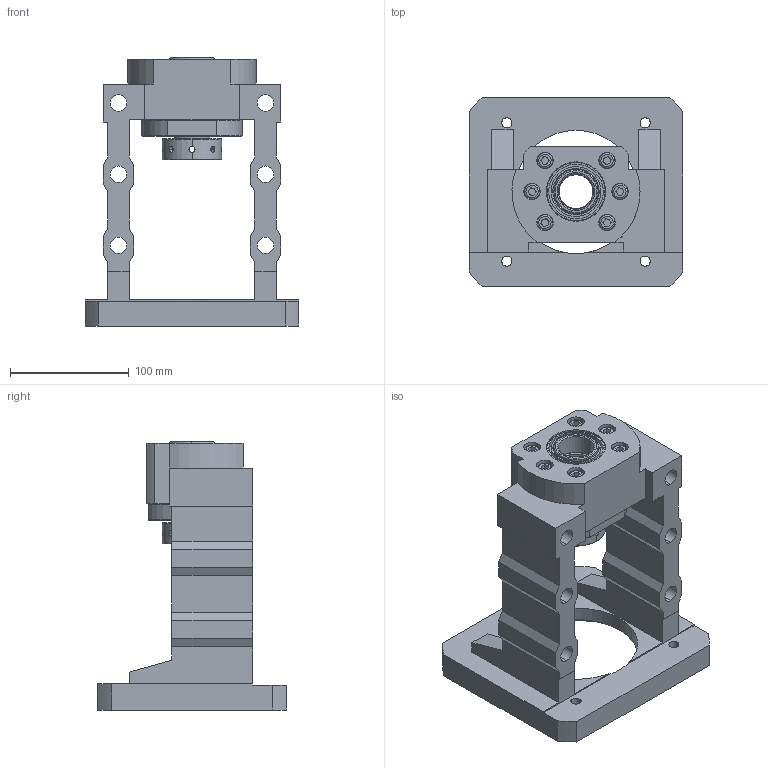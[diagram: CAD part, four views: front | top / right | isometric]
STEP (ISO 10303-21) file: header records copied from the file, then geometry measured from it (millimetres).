
FILE_DESCRIPTION (( 'STEP AP203' ), '1' );
FILE_NAME ('MBCS30-I²Õ¦X¥ó.STEP', '2024-09-03T05:54:57', ( '' ), ( '' ), 'SwSTEP 2.0', 'SolidWorks 2018', '' );
FILE_SCHEMA (( 'CONFIG_CONTROL_DESIGN' ));
Length unit declared in the file: millimetre
Products named in the file (1): MBCS30-I組合件
Bounding box: 180 x 160 x 226 mm (x, y, z)
Surface area: 209754.2 mm2 (no closed solid volume)
Topology: 0 solids, 21 shells, 342 faces, 956 edges, 631 vertices
Faces by surface type: plane 137, cylinder 116, cone 60, torus 24, bspline 5
Entity records: 19561 total; most frequent: CARTESIAN_POINT 10708, DIRECTION 1864, ORIENTED_EDGE 1700, EDGE_CURVE 948, AXIS2_PLACEMENT_3D 697, VERTEX_POINT 631, LINE 470, VECTOR 470
